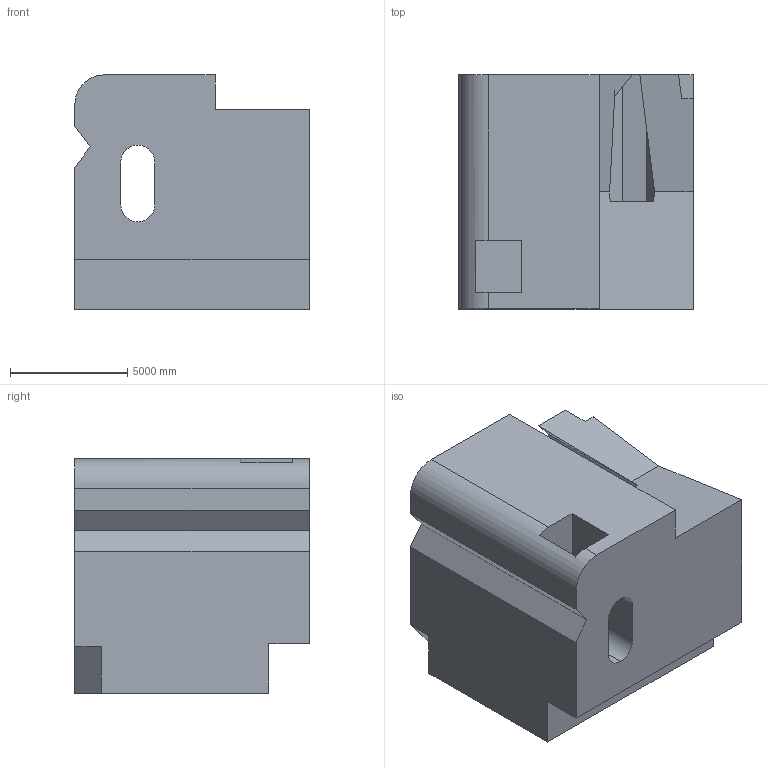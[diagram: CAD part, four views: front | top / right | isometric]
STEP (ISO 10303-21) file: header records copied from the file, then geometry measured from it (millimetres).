
FILE_DESCRIPTION (( 'STEP AP203' ), '1' );
FILE_NAME ('931.STEP', '2022-07-29T14:25:38', ( 'user' ), ( '' ), 'SwSTEP 2.0', 'SolidWorks 2021', '' );
FILE_SCHEMA (( 'CONFIG_CONTROL_DESIGN' ));
Length unit declared in the file: centimetre
Products named in the file (1): 931
Bounding box: 10000 x 10000 x 10000 mm (x, y, z)
Volume: 788849463072.9 mm3; surface area: 724093839.7 mm2
Topology: 1 solids, 1 shells, 45 faces, 129 edges, 86 vertices
Faces by surface type: plane 37, cylinder 8
Entity records: 1550 total; most frequent: CARTESIAN_POINT 261, ORIENTED_EDGE 258, DIRECTION 243, EDGE_CURVE 129, LINE 107, VECTOR 107, VERTEX_POINT 86, AXIS2_PLACEMENT_3D 68
